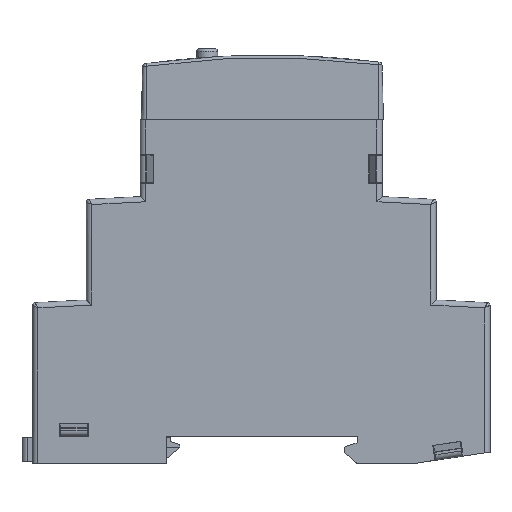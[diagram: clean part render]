
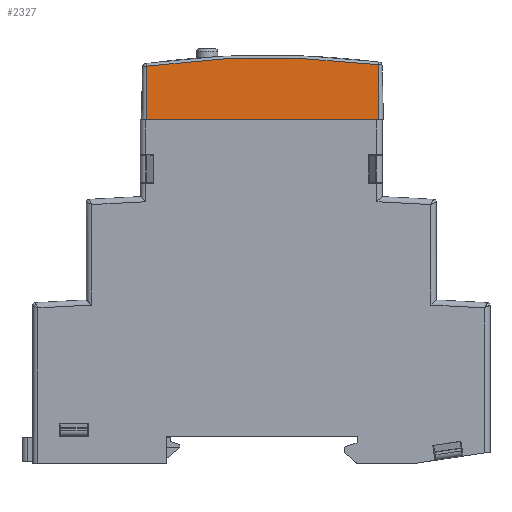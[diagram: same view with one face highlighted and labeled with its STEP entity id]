
A CAD part, front view. The second image highlights one B-rep face of the part: STEP entity #2327.
In plain terms, the highlighted planar face has unit normal (0, -1, 0.026).
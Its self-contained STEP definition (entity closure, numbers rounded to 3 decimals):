
#2327 = ADVANCED_FACE( '', ( #4852 ), #4853, .T. );
#4852 = FACE_OUTER_BOUND( '', #8257, .T. );
#4853 = PLANE( '', #8258 );
#8257 = EDGE_LOOP( '', ( #15764, #15765, #15766, #15767 ) );
#8258 = AXIS2_PLACEMENT_3D( '', #15768, #15769, #15770 );
#15764 = ORIENTED_EDGE( '', *, *, #18900, .T. );
#15765 = ORIENTED_EDGE( '', *, *, #18883, .T. );
#15766 = ORIENTED_EDGE( '', *, *, #20185, .T. );
#15767 = ORIENTED_EDGE( '', *, *, #17634, .T. );
#15768 = CARTESIAN_POINT( '', ( 0.199, -16.94, 28.3 ) );
#15769 = DIRECTION( '', ( 0., -1., 0.026 ) );
#15770 = DIRECTION( '', ( -1., 0., 0. ) );
#17634 = EDGE_CURVE( '', #21197, #21195, #21198, .T. );
#18883 = EDGE_CURVE( '', #23210, #23215, #23217, .T. );
#18900 = EDGE_CURVE( '', #21195, #23210, #23243, .T. );
#20185 = EDGE_CURVE( '', #23215, #21197, #24932, .T. );
#21195 = VERTEX_POINT( '', #26511 );
#21197 = VERTEX_POINT( '', #26513 );
#21198 = LINE( '', #26514, #26515 );
#23210 = VERTEX_POINT( '', #29514 );
#23215 = VERTEX_POINT( '', #29548 );
#23217 = ELLIPSE( '', #29550, 165.357, 165.3 );
#23243 = LINE( '', #29592, #29593 );
#24932 = LINE( '', #32099, #32100 );
#26511 = CARTESIAN_POINT( '', ( 21.699, -16.94, 28.3 ) );
#26513 = CARTESIAN_POINT( '', ( -21.301, -16.94, 28.3 ) );
#26514 = CARTESIAN_POINT( '', ( 0.199, -16.94, 28.3 ) );
#26515 = VECTOR( '', #32916, 1000. );
#29514 = CARTESIAN_POINT( '', ( 21.699, -16.672, 38.537 ) );
#29548 = CARTESIAN_POINT( '', ( -21.301, -16.679, 38.274 ) );
#29550 = AXIS2_PLACEMENT_3D( '', #34111, #34112, #34113 );
#29592 = CARTESIAN_POINT( '', ( 21.699, -16.94, 28.3 ) );
#29593 = VECTOR( '', #34125, 1000. );
#32099 = CARTESIAN_POINT( '', ( -21.301, -16.94, 28.3 ) );
#32100 = VECTOR( '', #35252, 1000. );
#32916 = DIRECTION( '', ( 1., 0., 0. ) );
#34111 = CARTESIAN_POINT( '', ( 1.204, -20.967, -125.487 ) );
#34112 = DIRECTION( '', ( 0., -1., 0.026 ) );
#34113 = DIRECTION( '', ( 0., -0.026, -1. ) );
#34125 = DIRECTION( '', ( 0., 0.026, 1. ) );
#35252 = DIRECTION( '', ( 0., -0.026, -1. ) );
